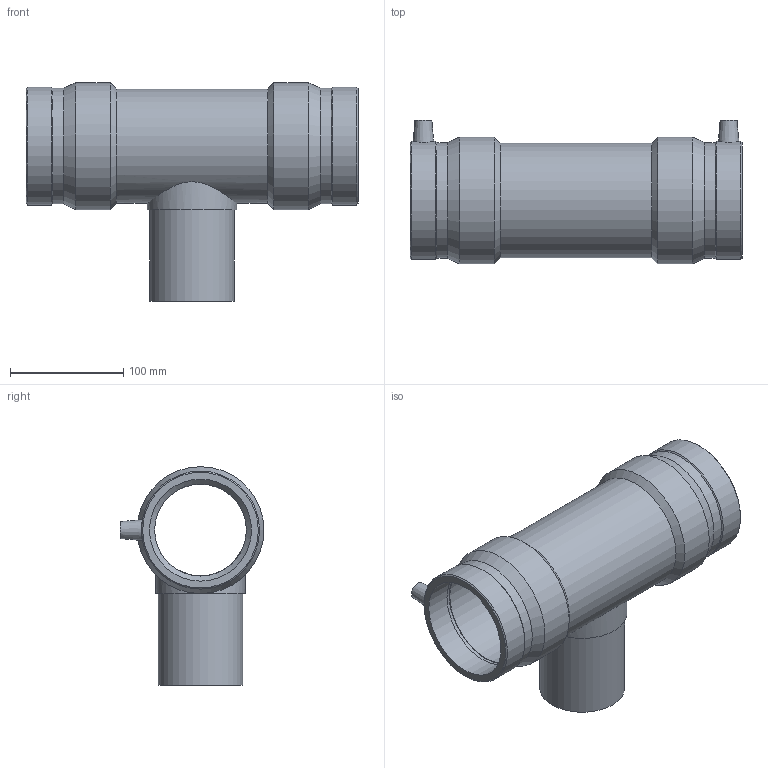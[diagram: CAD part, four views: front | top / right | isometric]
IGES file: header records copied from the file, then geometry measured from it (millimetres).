
Global section: file name: 491404090075.ipt; native system: Autodesk Inventor 2019; preprocessor: unknown; author: KIM; date: 20201206.224047; units: millimetre
Bounding box: 293 x 127 x 193 mm (x, y, z)
Volume: 957124.7 mm3; surface area: 220735.4 mm2
Topology: 1 solids, 1 shells, 45 faces, 101 edges, 66 vertices
Faces by surface type: plane 12, revolution 12, cylinder 11, cone 10
Full cylindrical faces by diameter (mm): 4 x2, 75 x1, 78.75 x1, 100.8 x1, 102.077 x2, 104.16 x2, 112 x2
